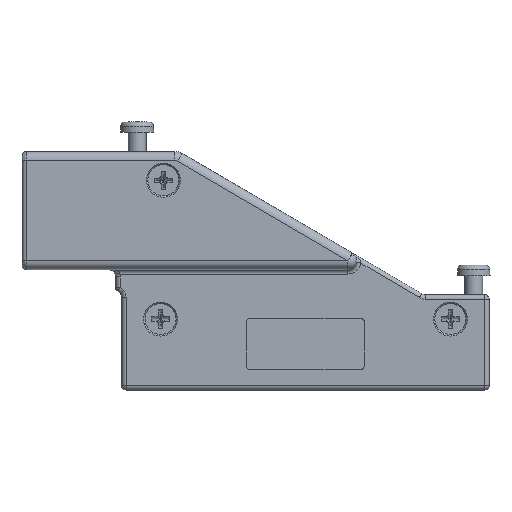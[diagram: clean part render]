
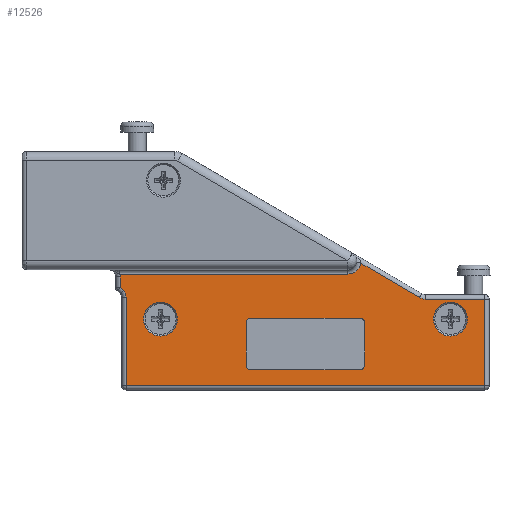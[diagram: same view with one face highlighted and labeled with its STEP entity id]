
A CAD part, top view. The second image highlights one B-rep face of the part: STEP entity #12526.
In plain terms, the highlighted planar face has unit normal (0, 0, 1).
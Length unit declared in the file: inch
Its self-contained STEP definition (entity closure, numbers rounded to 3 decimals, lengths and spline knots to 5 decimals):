
#11921=CARTESIAN_POINT('',(0.71329,0.05058,0.0405));
#11922=VERTEX_POINT('',#11921);
#12217=CARTESIAN_POINT('',(-0.92004,-0.0225,0.0405));
#12218=VERTEX_POINT('',#12217);
#12277=CARTESIAN_POINT('',(0.6249,-0.0225,0.0405));
#12278=VERTEX_POINT('',#12277);
#12286=CARTESIAN_POINT('',(0.6249,0.0675,0.0405));
#12287=DIRECTION('',(0.0,0.0,1.0));
#12288=DIRECTION('',(0.965,-0.261,0.0));
#12289=AXIS2_PLACEMENT_3D('',#12286,#12287,#12288);
#12290=CIRCLE('',#12289,0.09);
#12291=EDGE_CURVE('',#12278,#11922,#12290,.T.);
#12302=CARTESIAN_POINT('',(-0.92004,-0.0225,0.0405));
#12303=DIRECTION('',(1.0,0.0,0.0));
#12304=VECTOR('',#12303,1.54494);
#12305=LINE('',#12302,#12304);
#12306=EDGE_CURVE('',#12218,#12278,#12305,.T.);
#12325=CARTESIAN_POINT('',(1.1104,-0.18156,0.0405));
#12326=VERTEX_POINT('',#12325);
#12327=CARTESIAN_POINT('',(0.71329,0.05058,0.0405));
#12328=DIRECTION('',(0.863,-0.505,0.0));
#12329=VECTOR('',#12328,0.45998);
#12330=LINE('',#12327,#12329);
#12331=EDGE_CURVE('',#11922,#12326,#12330,.T.);
#12351=CARTESIAN_POINT('',(-1.5525,0.0075,0.0405));
#12352=DIRECTION('',(0.0,0.0,1.0));
#12353=DIRECTION('',(0.0,-1.0,0.0));
#12354=AXIS2_PLACEMENT_3D('',#12351,#12352,#12353);
#12355=PLANE('',#12354);
#12356=ORIENTED_EDGE('',*,*,#12291,.F.);
#12357=ORIENTED_EDGE('',*,*,#12306,.F.);
#12358=CARTESIAN_POINT('',(-0.9175,-0.0425,0.0405));
#12359=VERTEX_POINT('',#12358);
#12360=CARTESIAN_POINT('',(-0.9975,-0.0425,0.0405));
#12361=DIRECTION('',(0.0,0.0,1.0));
#12362=DIRECTION('',(0.707,0.707,0.0));
#12363=AXIS2_PLACEMENT_3D('',#12360,#12361,#12362);
#12364=CIRCLE('',#12363,0.08);
#12365=EDGE_CURVE('',#12359,#12218,#12364,.T.);
#12366=ORIENTED_EDGE('',*,*,#12365,.F.);
#12367=CARTESIAN_POINT('',(-0.9175,-0.11407,0.0405));
#12368=VERTEX_POINT('',#12367);
#12369=CARTESIAN_POINT('',(-0.9175,-0.11407,0.0405));
#12370=DIRECTION('',(0.0,1.0,0.0));
#12371=VECTOR('',#12370,0.07157);
#12372=LINE('',#12369,#12371);
#12373=EDGE_CURVE('',#12368,#12359,#12372,.T.);
#12374=ORIENTED_EDGE('',*,*,#12373,.F.);
#12375=CARTESIAN_POINT('',(-0.89507,-0.1365,0.0405));
#12376=VERTEX_POINT('',#12375);
#12377=CARTESIAN_POINT('',(-0.89507,-0.1365,0.0405));
#12378=DIRECTION('',(-0.707,0.707,0.0));
#12379=VECTOR('',#12378,0.03172);
#12380=LINE('',#12377,#12379);
#12381=EDGE_CURVE('',#12376,#12368,#12380,.T.);
#12382=ORIENTED_EDGE('',*,*,#12381,.F.);
#12383=CARTESIAN_POINT('',(-0.8775,-0.17893,0.0405));
#12384=VERTEX_POINT('',#12383);
#12385=CARTESIAN_POINT('',(-0.9375,-0.17893,0.0405));
#12386=DIRECTION('',(0.0,0.0,1.0));
#12387=DIRECTION('',(0.924,0.383,0.0));
#12388=AXIS2_PLACEMENT_3D('',#12385,#12386,#12387);
#12389=CIRCLE('',#12388,0.06);
#12390=EDGE_CURVE('',#12384,#12376,#12389,.T.);
#12391=ORIENTED_EDGE('',*,*,#12390,.F.);
#12392=CARTESIAN_POINT('',(-0.8775,-0.7775,0.0405));
#12393=VERTEX_POINT('',#12392);
#12394=CARTESIAN_POINT('',(-0.8775,-0.7775,0.0405));
#12395=DIRECTION('',(0.0,1.0,0.0));
#12396=VECTOR('',#12395,0.59857);
#12397=LINE('',#12394,#12396);
#12398=EDGE_CURVE('',#12393,#12384,#12397,.T.);
#12399=ORIENTED_EDGE('',*,*,#12398,.F.);
#12400=CARTESIAN_POINT('',(1.5525,-0.7775,0.0405));
#12401=VERTEX_POINT('',#12400);
#12402=CARTESIAN_POINT('',(1.5525,-0.7775,0.0405));
#12403=DIRECTION('',(-1.0,0.0,0.0));
#12404=VECTOR('',#12403,2.43);
#12405=LINE('',#12402,#12404);
#12406=EDGE_CURVE('',#12401,#12393,#12405,.T.);
#12407=ORIENTED_EDGE('',*,*,#12406,.F.);
#12408=CARTESIAN_POINT('',(1.5525,-0.1925,0.0405));
#12409=VERTEX_POINT('',#12408);
#12410=CARTESIAN_POINT('',(1.5525,-0.1925,0.0405));
#12411=DIRECTION('',(0.0,-1.0,0.0));
#12412=VECTOR('',#12411,0.585);
#12413=LINE('',#12410,#12412);
#12414=EDGE_CURVE('',#12409,#12401,#12413,.T.);
#12415=ORIENTED_EDGE('',*,*,#12414,.F.);
#12416=CARTESIAN_POINT('',(1.15077,-0.1925,0.0405));
#12417=VERTEX_POINT('',#12416);
#12418=CARTESIAN_POINT('',(1.15077,-0.1925,0.0405));
#12419=DIRECTION('',(1.0,0.0,0.0));
#12420=VECTOR('',#12419,0.40173);
#12421=LINE('',#12418,#12420);
#12422=EDGE_CURVE('',#12417,#12409,#12421,.T.);
#12423=ORIENTED_EDGE('',*,*,#12422,.F.);
#12424=CARTESIAN_POINT('',(1.15077,-0.1125,0.0405));
#12425=DIRECTION('',(0.0,0.0,1.0));
#12426=DIRECTION('',(-0.261,-0.965,0.0));
#12427=AXIS2_PLACEMENT_3D('',#12424,#12425,#12426);
#12428=CIRCLE('',#12427,0.08);
#12429=EDGE_CURVE('',#12326,#12417,#12428,.T.);
#12430=ORIENTED_EDGE('',*,*,#12429,.F.);
#12431=ORIENTED_EDGE('',*,*,#12331,.F.);
#12432=EDGE_LOOP('',(#12356,#12357,#12366,#12374,#12382,#12391,#12399,#12407,#12415,#12423,#12430,#12431));
#12433=FACE_OUTER_BOUND('',#12432,.T.);
#12434=CARTESIAN_POINT('',(-0.0625,-0.3505,0.0405));
#12435=VERTEX_POINT('',#12434);
#12436=CARTESIAN_POINT('',(-0.0325,-0.3205,0.0405));
#12437=VERTEX_POINT('',#12436);
#12438=CARTESIAN_POINT('',(-0.0325,-0.3505,0.0405));
#12439=DIRECTION('',(0.0,0.0,-1.0));
#12440=DIRECTION('',(-0.707,0.707,0.0));
#12441=AXIS2_PLACEMENT_3D('',#12438,#12439,#12440);
#12442=CIRCLE('',#12441,0.03);
#12443=EDGE_CURVE('',#12435,#12437,#12442,.T.);
#12444=ORIENTED_EDGE('',*,*,#12443,.T.);
#12445=CARTESIAN_POINT('',(0.7075,-0.3205,0.0405));
#12446=VERTEX_POINT('',#12445);
#12447=CARTESIAN_POINT('',(-0.0325,-0.3205,0.0405));
#12448=DIRECTION('',(1.0,0.0,0.0));
#12449=VECTOR('',#12448,0.74);
#12450=LINE('',#12447,#12449);
#12451=EDGE_CURVE('',#12437,#12446,#12450,.T.);
#12452=ORIENTED_EDGE('',*,*,#12451,.T.);
#12453=CARTESIAN_POINT('',(0.7375,-0.3505,0.0405));
#12454=VERTEX_POINT('',#12453);
#12455=CARTESIAN_POINT('',(0.7075,-0.3505,0.0405));
#12456=DIRECTION('',(0.0,0.0,-1.0));
#12457=DIRECTION('',(0.707,0.707,0.0));
#12458=AXIS2_PLACEMENT_3D('',#12455,#12456,#12457);
#12459=CIRCLE('',#12458,0.03);
#12460=EDGE_CURVE('',#12446,#12454,#12459,.T.);
#12461=ORIENTED_EDGE('',*,*,#12460,.T.);
#12462=CARTESIAN_POINT('',(0.7375,-0.6405,0.0405));
#12463=VERTEX_POINT('',#12462);
#12464=CARTESIAN_POINT('',(0.7375,-0.3505,0.0405));
#12465=DIRECTION('',(0.0,-1.0,0.0));
#12466=VECTOR('',#12465,0.29);
#12467=LINE('',#12464,#12466);
#12468=EDGE_CURVE('',#12454,#12463,#12467,.T.);
#12469=ORIENTED_EDGE('',*,*,#12468,.T.);
#12470=CARTESIAN_POINT('',(0.7075,-0.6705,0.0405));
#12471=VERTEX_POINT('',#12470);
#12472=CARTESIAN_POINT('',(0.7075,-0.6405,0.0405));
#12473=DIRECTION('',(0.0,0.0,-1.0));
#12474=DIRECTION('',(0.707,-0.707,0.0));
#12475=AXIS2_PLACEMENT_3D('',#12472,#12473,#12474);
#12476=CIRCLE('',#12475,0.03);
#12477=EDGE_CURVE('',#12463,#12471,#12476,.T.);
#12478=ORIENTED_EDGE('',*,*,#12477,.T.);
#12479=CARTESIAN_POINT('',(-0.0325,-0.6705,0.0405));
#12480=VERTEX_POINT('',#12479);
#12481=CARTESIAN_POINT('',(0.7075,-0.6705,0.0405));
#12482=DIRECTION('',(-1.0,0.0,0.0));
#12483=VECTOR('',#12482,0.74);
#12484=LINE('',#12481,#12483);
#12485=EDGE_CURVE('',#12471,#12480,#12484,.T.);
#12486=ORIENTED_EDGE('',*,*,#12485,.T.);
#12487=CARTESIAN_POINT('',(-0.0625,-0.6405,0.0405));
#12488=VERTEX_POINT('',#12487);
#12489=CARTESIAN_POINT('',(-0.0325,-0.6405,0.0405));
#12490=DIRECTION('',(0.0,0.0,-1.0));
#12491=DIRECTION('',(-0.707,-0.707,0.0));
#12492=AXIS2_PLACEMENT_3D('',#12489,#12490,#12491);
#12493=CIRCLE('',#12492,0.03);
#12494=EDGE_CURVE('',#12480,#12488,#12493,.T.);
#12495=ORIENTED_EDGE('',*,*,#12494,.T.);
#12496=CARTESIAN_POINT('',(-0.0625,-0.6405,0.0405));
#12497=DIRECTION('',(0.0,1.0,0.0));
#12498=VECTOR('',#12497,0.29);
#12499=LINE('',#12496,#12498);
#12500=EDGE_CURVE('',#12488,#12435,#12499,.T.);
#12501=ORIENTED_EDGE('',*,*,#12500,.T.);
#12502=EDGE_LOOP('',(#12444,#12452,#12461,#12469,#12478,#12486,#12495,#12501));
#12503=FACE_BOUND('',#12502,.T.);
#12504=CARTESIAN_POINT('',(1.319,-0.2125,0.0405));
#12505=VERTEX_POINT('',#12504);
#12506=CARTESIAN_POINT('',(1.319,-0.3275,0.0405));
#12507=DIRECTION('',(0.0,0.0,-1.0));
#12508=DIRECTION('',(0.0,1.0,0.0));
#12509=AXIS2_PLACEMENT_3D('',#12506,#12507,#12508);
#12510=CIRCLE('',#12509,0.115);
#12511=EDGE_CURVE('',#12505,#12505,#12510,.T.);
#12512=ORIENTED_EDGE('',*,*,#12511,.T.);
#12513=EDGE_LOOP('',(#12512));
#12514=FACE_BOUND('',#12513,.T.);
#12515=CARTESIAN_POINT('',(-0.644,-0.2125,0.0405));
#12516=VERTEX_POINT('',#12515);
#12517=CARTESIAN_POINT('',(-0.644,-0.3275,0.0405));
#12518=DIRECTION('',(0.0,0.0,-1.0));
#12519=DIRECTION('',(0.0,1.0,0.0));
#12520=AXIS2_PLACEMENT_3D('',#12517,#12518,#12519);
#12521=CIRCLE('',#12520,0.115);
#12522=EDGE_CURVE('',#12516,#12516,#12521,.T.);
#12523=ORIENTED_EDGE('',*,*,#12522,.T.);
#12524=EDGE_LOOP('',(#12523));
#12525=FACE_BOUND('',#12524,.T.);
#12526=ADVANCED_FACE('',(#12433,#12503,#12514,#12525),#12355,.T.);
